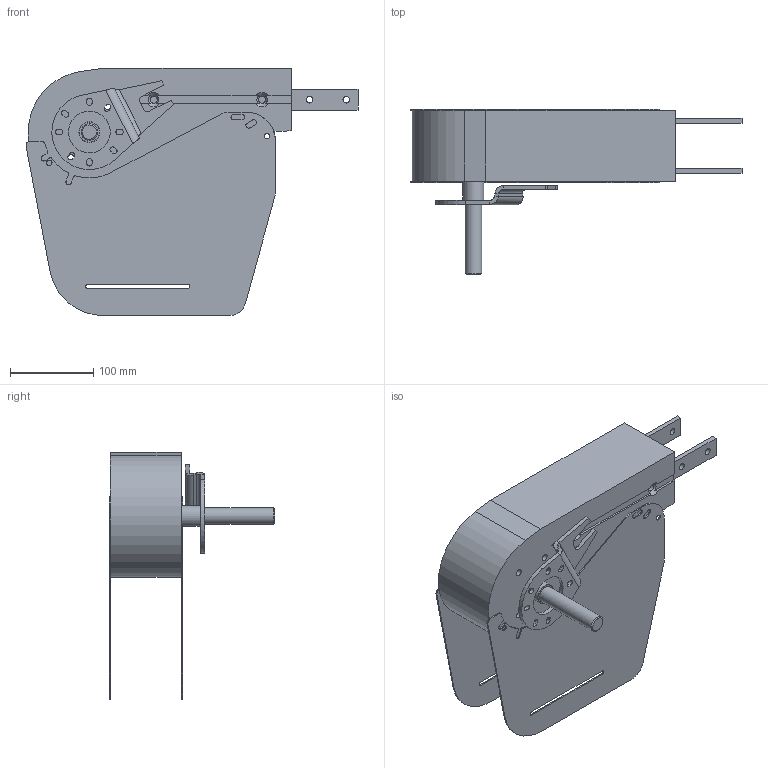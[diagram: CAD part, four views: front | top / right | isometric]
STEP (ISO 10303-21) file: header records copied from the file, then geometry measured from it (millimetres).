
FILE_DESCRIPTION(/* description */ ('Endantriebseinheit FM, medium, ohne Rutschkupplung, links, offen, direkt'),/* implementation_level */ '2;1');
FILE_NAME(/* name */ 'T:\vdz0\Step Daten Website\modulflex FM-System\Antriebseinheiten rechts - links\FMEB_MNLP-43936.stp',/* time_stamp */ '2024-08-21T09:42:53+02:00',/* author */ ('vdz0'),/* organization */ ('modular automation GmbH'),/* preprocessor_version */ 'ST-DEVELOPER v18.1',/* originating_system */ 'Autodesk Inventor 2021',/* authorisation */ '');
FILE_SCHEMA (('CONFIG_CONTROL_DESIGN'));
Length unit declared in the file: millimetre
Products named in the file (1): FMEB_MNLP-43936
Bounding box: 397.95 x 198.6 x 296.25 mm (x, y, z)
Volume: 3090033.6 mm3; surface area: 374960.4 mm2
Topology: 2 solids, 3 shells, 229 faces, 608 edges, 396 vertices
Faces by surface type: plane 121, cylinder 92, cone 12, bspline 4
Full cylindrical faces by diameter (mm): 6.5 x4, 8 x8, 8.5 x6, 20 x1, 25 x1, 50 x1
Entity records: 7826 total; most frequent: CARTESIAN_POINT 1706, DIRECTION 1244, ORIENTED_EDGE 1216, EDGE_CURVE 608, AXIS2_PLACEMENT_3D 434, VERTEX_POINT 396, LINE 376, VECTOR 376
